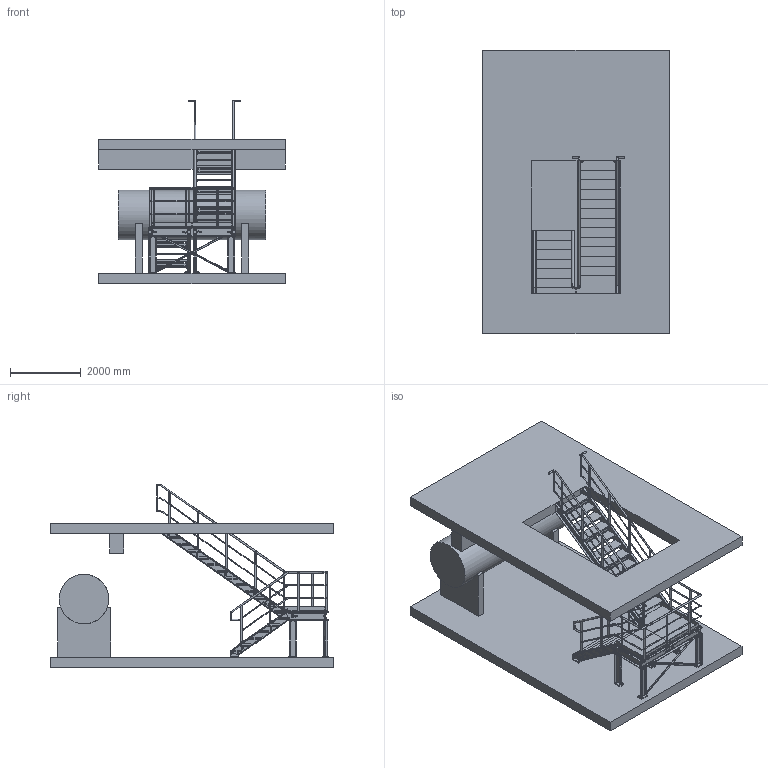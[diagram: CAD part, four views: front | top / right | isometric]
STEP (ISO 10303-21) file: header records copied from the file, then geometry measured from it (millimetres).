
FILE_DESCRIPTION(('TFLEX Exchange Step'),'2;1');
FILE_NAME('as_gray_1.stp', '2026-11-09T15:21:34+01:00',('User'),('Unknown organisation'),'TFLEX Exchange 2021.2','T-FLEX CAD','Unknown authorisation');
FILE_SCHEMA( ('AUTOMOTIVE_DESIGN { 1 0 10303 214 1 1 1 1 }') );
Length unit declared in the file: millimetre
Products named in the file (508): EnBW Treppe Turbinenraum; Ohne Position - Blech t=300 mm - C25/30 - 5266 mm - 31593.34 kg/St - 2x; Ohne Position - R40x55 - C25/30 - 5266 mm - 2896.06 kg; Ohne Position - D140 - C25/30 - 4166 mm - 16005.20 kg; Ohne Position - Blech t=200 mm - C25/30 - 1500 mm - 834.37 kg/St - 2x; Ohne Position - U240 - S235JR - 153 mm - 3.01 kg/St - 11x; Ohne Position - Blech t=40 mm - S235JR - 994 mm - 9.10 kg/St - 20x; Ohne Position - Blech t=3 mm - S235JR - 70 mm - 0.49 kg/St - 36x; Ohne Positionsnummer; Ohne Position - L 40x4 - S235JR - 1035 mm - 2.47 kg/St - 3x; Ohne Position - RR 48.3x4 - S235JR - 1062 mm - 4.39 kg/St - 39x; Ohne Position - Blech t=15 mm - S235JR - 70 mm - 1.65 kg/St - 26x; Ohne Position - RR 26.9x2.6 - S235JR - 951 mm - 1.42 kg/St - 60x; Ohne Position - Blech t=2 mm - S235JR - 230 mm - 0.56 kg/St - 7x; Ohne Position - Blech t=10 mm - S235JR - 230 mm - 2.80 kg/St - 7x; Ohne Position - Blech t=5 mm - S235JR - 230 mm - 1.40 kg/St - 7x; Ohne Position - Blech t=8 mm - S235JR - 1053 mm - 9.21 kg/St - 4x; Ohne Position - U100 - S235JR - 980 mm - 10.37 kg/St - 9x; Ohne Position - Blech t=10 mm - S235JR - 46 mm - 0.32 kg/St - 34x; Ohne Position - RR 38x2.6 - S235JR - 80 mm - 0.18 kg/St - 3x; Ohne Position - Rd 20 - S235JR - 80 mm - 0.19 kg/St - 6x; Ohne Position - U200 - S235JR - 1003 mm - 25.42 kg/St - 5x; Ohne Position - Blech t=20 mm - S235JR - 230 mm - 5.60 kg/St - 7x; Ohne Position - L 50x5 - S235JR - 1260 mm - 4.70 kg/St - 6x; Ohne Position - Sonderteil - S235JR - 35 mm - 12x
Assembly tree (507 placements, depth 2):
  EnBW Treppe Turbinenraum
    Ohne Position - Blech t=300 mm - C25/30 - 5266 mm - 31593.34 kg/St - 2x
    Ohne Position - Blech t=300 mm - C25/30 - 5266 mm - 31593.34 kg/St - 2x
    Ohne Position - R40x55 - C25/30 - 5266 mm - 2896.06 kg
    Ohne Position - D140 - C25/30 - 4166 mm - 16005.20 kg
    Ohne Position - Blech t=200 mm - C25/30 - 1500 mm - 834.37 kg/St - 2x
    Ohne Position - Blech t=200 mm - C25/30 - 1500 mm - 834.37 kg/St - 2x
    Ohne Position - U240 - S235JR - 153 mm - 3.01 kg/St - 11x
    Ohne Position - U240 - S235JR - 153 mm - 3.01 kg/St - 11x
    Ohne Position - U240 - S235JR - 153 mm - 3.01 kg/St - 11x
    Ohne Position - U240 - S235JR - 153 mm - 3.01 kg/St - 11x
    Ohne Position - U240 - S235JR - 153 mm - 3.01 kg/St - 11x
    Ohne Position - U240 - S235JR - 153 mm - 3.01 kg/St - 11x
    Ohne Position - U240 - S235JR - 153 mm - 3.01 kg/St - 11x
    Ohne Position - U240 - S235JR - 153 mm - 3.01 kg/St - 11x
    Ohne Position - U240 - S235JR - 153 mm - 3.01 kg/St - 11x
    Ohne Position - U240 - S235JR - 153 mm - 3.01 kg/St - 11x
    Ohne Position - U240 - S235JR - 153 mm - 3.01 kg/St - 11x
    Ohne Position - Blech t=40 mm - S235JR - 994 mm - 9.10 kg/St - 20x
    Ohne Position - Blech t=40 mm - S235JR - 994 mm - 9.10 kg/St - 20x
    Ohne Position - Blech t=40 mm - S235JR - 994 mm - 9.10 kg/St - 20x
    Ohne Position - Blech t=40 mm - S235JR - 994 mm - 9.10 kg/St - 20x
    Ohne Position - Blech t=40 mm - S235JR - 994 mm - 9.10 kg/St - 20x
    Ohne Position - Blech t=40 mm - S235JR - 994 mm - 9.10 kg/St - 20x
    Ohne Position - Blech t=40 mm - S235JR - 994 mm - 9.10 kg/St - 20x
    Ohne Position - Blech t=40 mm - S235JR - 994 mm - 9.10 kg/St - 20x
    Ohne Position - Blech t=40 mm - S235JR - 994 mm - 9.10 kg/St - 20x
    Ohne Position - Blech t=40 mm - S235JR - 994 mm - 9.10 kg/St - 20x
    Ohne Position - Blech t=40 mm - S235JR - 994 mm - 9.10 kg/St - 20x
    Ohne Position - Blech t=40 mm - S235JR - 994 mm - 9.10 kg/St - 20x
    Ohne Position - Blech t=40 mm - S235JR - 994 mm - 9.10 kg/St - 20x
    Ohne Position - Blech t=40 mm - S235JR - 994 mm - 9.10 kg/St - 20x
    Ohne Position - Blech t=40 mm - S235JR - 994 mm - 9.10 kg/St - 20x
    Ohne Position - Blech t=40 mm - S235JR - 994 mm - 9.10 kg/St - 20x
    Ohne Position - Blech t=40 mm - S235JR - 994 mm - 9.10 kg/St - 20x
    Ohne Position - Blech t=40 mm - S235JR - 994 mm - 9.10 kg/St - 20x
    Ohne Position - Blech t=40 mm - S235JR - 994 mm - 9.10 kg/St - 20x
    Ohne Position - Blech t=40 mm - S235JR - 994 mm - 9.10 kg/St - 20x
    Ohne Position - Blech t=3 mm - S235JR - 70 mm - 0.49 kg/St - 36x
    Ohne Position - Blech t=3 mm - S235JR - 70 mm - 0.49 kg/St - 36x
    Ohne Position - Blech t=3 mm - S235JR - 70 mm - 0.49 kg/St - 36x
    Ohne Position - Blech t=3 mm - S235JR - 70 mm - 0.49 kg/St - 36x
    Ohne Position - Blech t=3 mm - S235JR - 70 mm - 0.49 kg/St - 36x
    Ohne Position - Blech t=3 mm - S235JR - 70 mm - 0.49 kg/St - 36x
    Ohne Position - Blech t=3 mm - S235JR - 70 mm - 0.49 kg/St - 36x
    Ohne Position - Blech t=3 mm - S235JR - 70 mm - 0.49 kg/St - 36x
    Ohne Position - Blech t=3 mm - S235JR - 70 mm - 0.49 kg/St - 36x
    Ohne Position - Blech t=3 mm - S235JR - 70 mm - 0.49 kg/St - 36x
    Ohne Position - Blech t=3 mm - S235JR - 70 mm - 0.49 kg/St - 36x
    Ohne Position - Blech t=3 mm - S235JR - 70 mm - 0.49 kg/St - 36x
    Ohne Position - Blech t=3 mm - S235JR - 70 mm - 0.49 kg/St - 36x
    Ohne Position - Blech t=3 mm - S235JR - 70 mm - 0.49 kg/St - 36x
    Ohne Position - Blech t=3 mm - S235JR - 70 mm - 0.49 kg/St - 36x
    Ohne Position - Blech t=3 mm - S235JR - 70 mm - 0.49 kg/St - 36x
    Ohne Position - Blech t=3 mm - S235JR - 70 mm - 0.49 kg/St - 36x
    Ohne Position - Blech t=3 mm - S235JR - 70 mm - 0.49 kg/St - 36x
    Ohne Position - Blech t=3 mm - S235JR - 70 mm - 0.49 kg/St - 36x
    Ohne Position - Blech t=3 mm - S235JR - 70 mm - 0.49 kg/St - 36x
    Ohne Position - Blech t=3 mm - S235JR - 70 mm - 0.49 kg/St - 36x
    Ohne Position - Blech t=3 mm - S235JR - 70 mm - 0.49 kg/St - 36x
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Bounding box: 5265.56 x 8000 x 5193 mm (x, y, z)
Volume: 31176214274.5 mm3; surface area: 276388350.2 mm2
Topology: 507 solids, 507 shells, 7661 faces, 18159 edges, 12406 vertices
Faces by surface type: plane 5853, cylinder 1808
Full cylindrical faces by diameter (mm): 12 x338, 13 x6, 13.002 x36, 14.002 x226, 16 x52, 16.002 x6, 18.002 x16, 19.002 x18, 20 x26, 21.7 x60, 22.002 x20, 24 x300, 26.9 x60, 30 x34, 32.8 x3, 35 x6, 37 x10, 38 x3, 40.3 x39, 48.3 x39, 1400 x1
Entity records: 626163 total; most frequent: CARTESIAN_POINT 446103, ORIENTED_EDGE 34810, DIRECTION 32437, EDGE_CURVE 17405, VECTOR 12433, LINE 12433, VERTEX_POINT 12406, EDGE_LOOP 10319
